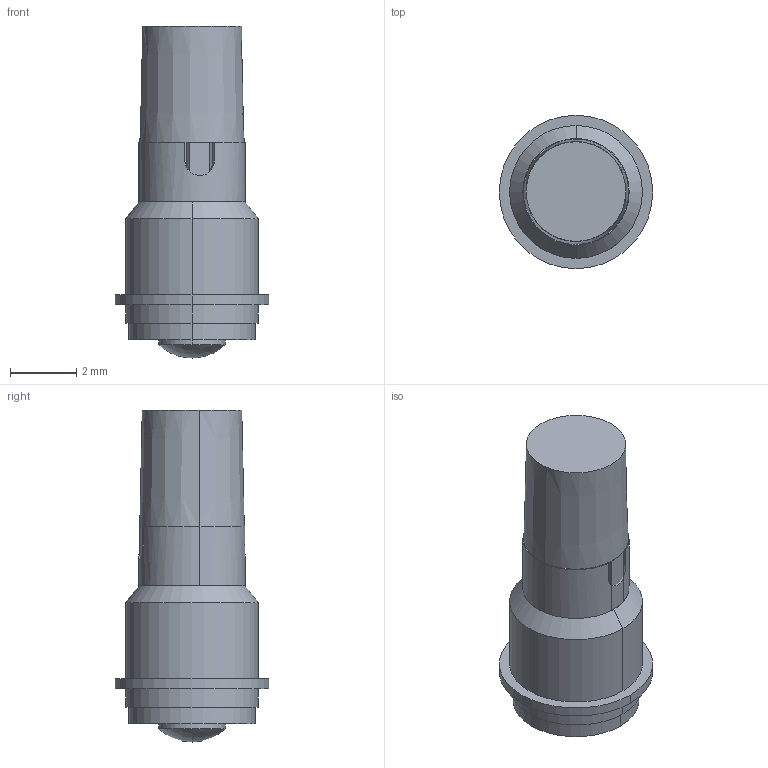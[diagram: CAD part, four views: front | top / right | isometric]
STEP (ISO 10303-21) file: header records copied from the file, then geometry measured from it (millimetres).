
FILE_DESCRIPTION (( 'STEP AP203' ), '1' );
FILE_NAME ('202 Series.STEP', '2016-08-03T08:02:20', ( '' ), ( '' ), 'SwSTEP 2.0', 'SolidWorks 2016', '' );
FILE_SCHEMA (( 'CONFIG_CONTROL_DESIGN' ));
Length unit declared in the file: millimetre
Products named in the file (7): Part5^202series; Solder3; 202CAP; 202plastic; Part9^202series; 202led-simple; 202 Series
Assembly tree (4 placements, depth 2):
  Part5^202series
  Part9^202series
  202 Series
    202CAP
    202led-simple
    202plastic
    Solder3
Bounding box: 4.62 x 4.62 x 10 mm (x, y, z)
Volume: 56.8 mm3; surface area: 224.4 mm2
Topology: 4 solids, 4 shells, 57 faces, 124 edges, 79 vertices
Faces by surface type: plane 29, cylinder 20, cone 6, sphere 2
Entity records: 2273 total; most frequent: DIRECTION 304, CARTESIAN_POINT 303, ORIENTED_EDGE 248, EDGE_CURVE 124, AXIS2_PLACEMENT_3D 120, VERTEX_POINT 79, EDGE_LOOP 65, LINE 64
